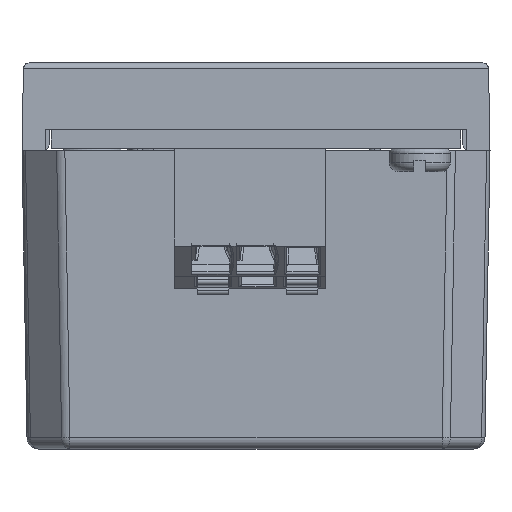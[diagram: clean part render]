
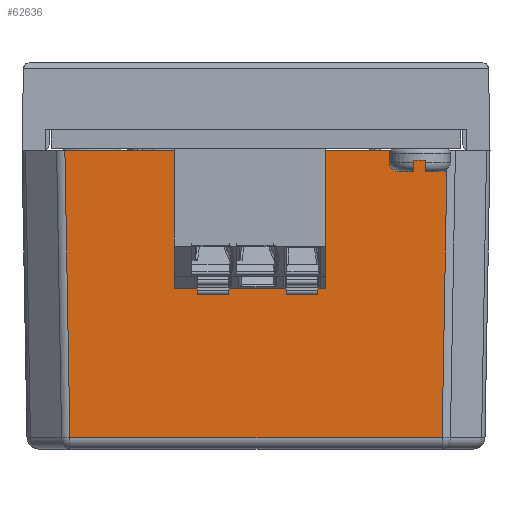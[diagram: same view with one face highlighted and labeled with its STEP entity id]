
A CAD part, left-side view. The second image highlights one B-rep face of the part: STEP entity #62636.
In plain terms, the highlighted planar face has unit normal (-1, 0, -0.018).
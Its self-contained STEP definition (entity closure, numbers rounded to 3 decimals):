
#2267 = VECTOR ( 'NONE', #87002, 1000. ) ;
#8360 = FACE_OUTER_BOUND ( 'NONE', #15898, .T. ) ;
#13410 = CARTESIAN_POINT ( 'NONE',  ( -1.85, 1.865, 20.8 ) ) ;
#13785 = LINE ( 'NONE', #58580, #48312 ) ;
#15644 = DIRECTION ( 'NONE',  ( -0.017, 0., 1. ) ) ;
#15898 = EDGE_LOOP ( 'NONE', ( #28245, #77949, #89710, #49664 ) ) ;
#20946 = LINE ( 'NONE', #49708, #54592 ) ;
#22049 = DIRECTION ( 'NONE',  ( 0., -1., 0. ) ) ;
#26824 = DIRECTION ( 'NONE',  ( 0.017, 0.017, -1. ) ) ;
#27795 = VECTOR ( 'NONE', #70129, 1000. ) ;
#28245 = ORIENTED_EDGE ( 'NONE', *, *, #48335, .F. ) ;
#29303 = DIRECTION ( 'NONE',  ( -1., 0., -0.017 ) ) ;
#31194 = CARTESIAN_POINT ( 'NONE',  ( -1.85, 1.865, 20.8 ) ) ;
#31542 = VERTEX_POINT ( 'NONE', #35168 ) ;
#35168 = CARTESIAN_POINT ( 'NONE',  ( -1.85, 34.535, 20.8 ) ) ;
#48312 = VECTOR ( 'NONE', #22049, 1000. ) ;
#48335 = EDGE_CURVE ( 'NONE', #75530, #91279, #20946, .T. ) ;
#49385 = AXIS2_PLACEMENT_3D ( 'NONE', #89207, #29303, #15644 ) ;
#49664 = ORIENTED_EDGE ( 'NONE', *, *, #67622, .T. ) ;
#49708 = CARTESIAN_POINT ( 'NONE',  ( -1.85, 1.865, 20.8 ) ) ;
#51667 = EDGE_CURVE ( 'NONE', #87794, #31542, #85212, .T. ) ;
#54592 = VECTOR ( 'NONE', #26824, 1000. ) ;
#57275 = CARTESIAN_POINT ( 'NONE',  ( -1.422, 34.107, -3.717 ) ) ;
#58580 = CARTESIAN_POINT ( 'NONE',  ( -1.422, 34.107, -3.717 ) ) ;
#62636 = ADVANCED_FACE ( 'NONE', ( #8360 ), #82853, .T. ) ;
#67622 = EDGE_CURVE ( 'NONE', #87794, #91279, #13785, .T. ) ;
#68697 = LINE ( 'NONE', #31194, #27795 ) ;
#70129 = DIRECTION ( 'NONE',  ( 0., 1., 0. ) ) ;
#75530 = VERTEX_POINT ( 'NONE', #13410 ) ;
#77949 = ORIENTED_EDGE ( 'NONE', *, *, #84868, .T. ) ;
#82853 = PLANE ( 'NONE',  #49385 ) ;
#83066 = CARTESIAN_POINT ( 'NONE',  ( -1.422, 2.293, -3.717 ) ) ;
#84868 = EDGE_CURVE ( 'NONE', #75530, #31542, #68697, .T. ) ;
#85212 = LINE ( 'NONE', #57275, #2267 ) ;
#86411 = CARTESIAN_POINT ( 'NONE',  ( -1.422, 34.107, -3.717 ) ) ;
#87002 = DIRECTION ( 'NONE',  ( -0.017, 0.017, 1. ) ) ;
#87794 = VERTEX_POINT ( 'NONE', #86411 ) ;
#89207 = CARTESIAN_POINT ( 'NONE',  ( -1.85, 40.071, 20.8 ) ) ;
#89710 = ORIENTED_EDGE ( 'NONE', *, *, #51667, .F. ) ;
#91279 = VERTEX_POINT ( 'NONE', #83066 ) ;
